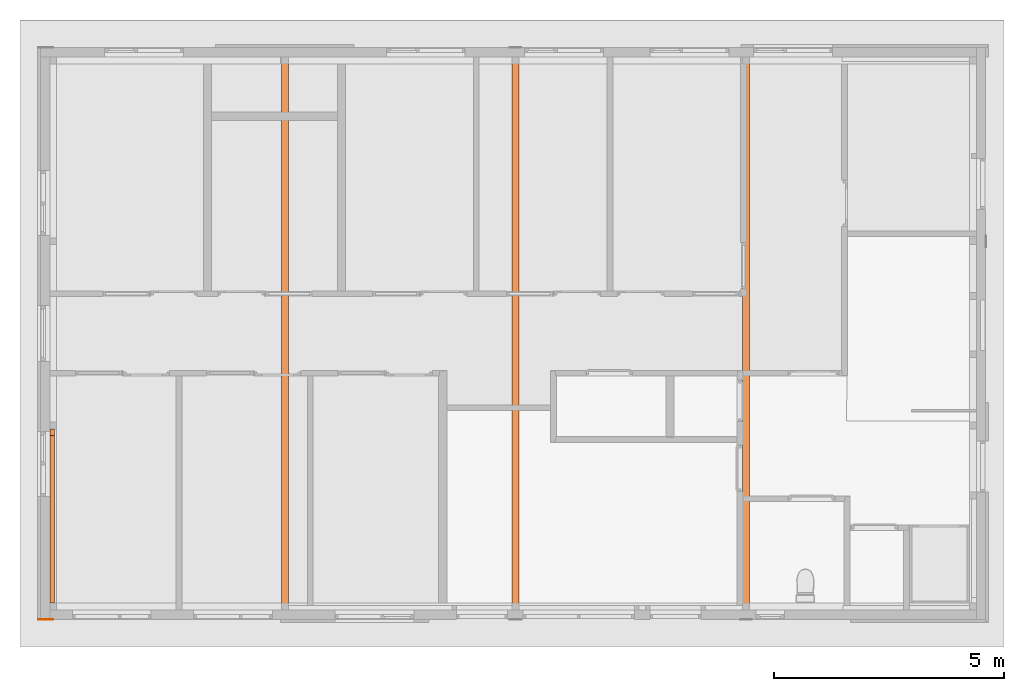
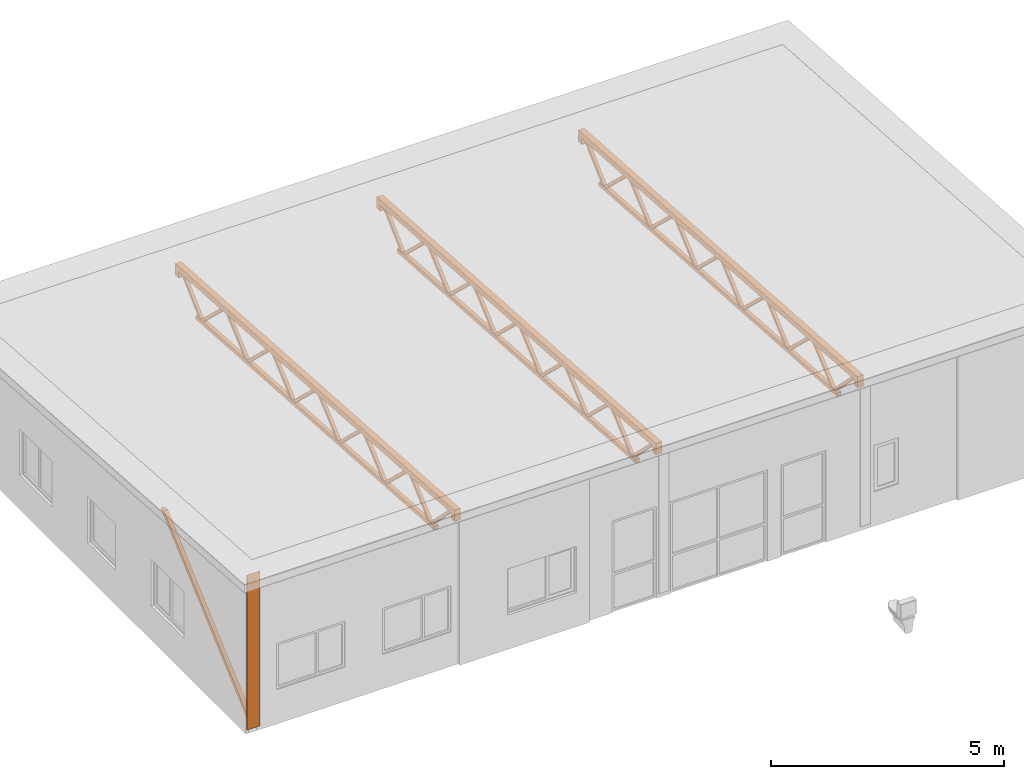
# One storey, part 35 of 37: 5 proxies.
"""IFC2X3 building model written with IfcOpenShell, lengths in millimetres."""

from ifc_helpers import new_model, entity, si_unit, converted_unit, frame, origin, place, context, subcontext, project, spatial, faceted_brep, source, transform, mapped, material, element, save


model = new_model("IFC2X3")

# Units and contexts
model_context = context("Model", 3, precision=1e-05, world=origin())
plan_context = context("Plan", 3, precision=1e-05, world=origin())
body_context = subcontext(model_context, "Body", "Model", "MODEL_VIEW")
ifc_project = project(units=[si_unit("LENGTHUNIT", "METRE", prefix="MILLI"), converted_unit("PLANEANGLEUNIT", "DEGREE", entity("IfcPlaneAngleMeasure", 0.0174532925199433), si_unit("PLANEANGLEUNIT", "RADIAN"), dimensions=[0, 0, 0, 0, 0, 0, 0]), si_unit("AREAUNIT", "SQUARE_METRE"), si_unit("VOLUMEUNIT", "CUBIC_METRE")], contexts=[model_context, plan_context])

# Building, storey
building_placement = place(None, origin())
building = spatial("IfcBuilding", under=ifc_project, at=building_placement, Name="HEKF Administrasjonbygg", CompositionType="ELEMENT")
storey_placement = place(building_placement, frame((0.0, 0.0, 9900.0), z_axis=(0.0, 0.0, 1.0), x_axis=(1.0, 0.0, 0.0)))
storey = spatial("IfcBuildingStorey", under=building, at=storey_placement, Name="Plan 2", CompositionType="ELEMENT", Elevation=9900.0)

# Proxies
shared_shape = source(origin(), body_context, "Body", "Brep", [
    faceted_brep([(11850.01000000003, 150.0100000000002, 667.5320539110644), (12000.01000000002, 150.0100000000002, 667.5320539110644), (12000.01, 150.0100000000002, 817.5320539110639), (11850.01000000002, 150.0100000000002, 827.532053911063), (12000.01000000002, 0.01000000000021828, 667.5320539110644), (11850.01000000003, 0.01000000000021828, 667.5320539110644), (11850.01000000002, 0.01000000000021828, 827.5320539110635), (12000.01, 0.01000000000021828, 817.5320539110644), (12000.01000000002, 150.0100000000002, 667.5320539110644), (11850.01000000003, 150.0100000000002, 667.5320539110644), (11850.01000000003, 0.01000000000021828, 667.5320539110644), (12000.01000000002, 0.01000000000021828, 667.5320539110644), (12000.01, 150.0100000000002, 817.5320539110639), (12000.01000000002, 150.0100000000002, 667.5320539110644), (12000.01000000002, 0.01000000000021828, 667.5320539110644), (12000.01, 0.01000000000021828, 817.5320539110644), (11850.01000000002, 150.0100000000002, 827.532053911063), (12000.01, 150.0100000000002, 817.5320539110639), (12000.01, 0.01000000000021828, 817.5320539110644), (11850.01000000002, 0.01000000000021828, 827.5320539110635), (11850.01000000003, 150.0100000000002, 667.5320539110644), (11850.01000000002, 150.0100000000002, 827.532053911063), (11850.01000000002, 0.01000000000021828, 827.5320539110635), (11850.01000000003, 0.01000000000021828, 667.5320539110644)], [[[0, 1, 2, 3]], [[4, 5, 6, 7]], [[8, 9, 10, 11]], [[12, 13, 14, 15]], [[16, 17, 18, 19]], [[20, 21, 22, 23]]], orient=[[False], [False], [False], [False], [False], [False]]),
    faceted_brep([(150.0100000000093, 150.0100000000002, 1607.532053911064), (0.01000000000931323, 150.0100000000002, 1617.532053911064), (0.01000000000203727, 150.0100000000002, 1467.532053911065), (150.0100000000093, 150.0100000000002, 1467.532053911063), (0.01000000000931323, 0.01000000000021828, 1617.532053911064), (150.0100000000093, 0.01000000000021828, 1607.532053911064), (150.0100000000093, 0.01000000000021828, 1467.532053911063), (0.01000000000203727, 0.01000000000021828, 1467.532053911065), (0.01000000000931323, 150.0100000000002, 1617.532053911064), (150.0100000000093, 150.0100000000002, 1607.532053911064), (150.0100000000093, 0.01000000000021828, 1607.532053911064), (0.01000000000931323, 0.01000000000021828, 1617.532053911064), (0.01000000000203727, 150.0100000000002, 1467.532053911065), (0.01000000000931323, 150.0100000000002, 1617.532053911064), (0.01000000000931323, 0.01000000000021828, 1617.532053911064), (0.01000000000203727, 0.01000000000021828, 1467.532053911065), (150.0100000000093, 150.0100000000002, 1467.532053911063), (0.01000000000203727, 150.0100000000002, 1467.532053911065), (0.01000000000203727, 0.01000000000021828, 1467.532053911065), (150.0100000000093, 0.01000000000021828, 1467.532053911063), (150.0100000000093, 150.0100000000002, 1607.532053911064), (150.0100000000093, 150.0100000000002, 1467.532053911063), (150.0100000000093, 0.01000000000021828, 1467.532053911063), (150.0100000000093, 0.01000000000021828, 1607.532053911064)], [[[0, 1, 2, 3]], [[4, 5, 6, 7]], [[8, 9, 10, 11]], [[12, 13, 14, 15]], [[16, 17, 18, 19]], [[20, 21, 22, 23]]], orient=[[False], [False], [False], [False], [False], [False]]),
    faceted_brep([(12000.01, 150.0100000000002, 817.5320539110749), (12000.01, 150.0100000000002, 967.8650176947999), (0.01000000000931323, 150.0100000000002, 1767.865017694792), (0.01000000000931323, 150.0100000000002, 1617.532053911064), (12000.01, 0.01000000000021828, 967.8650176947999), (12000.01, 0.01000000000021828, 817.5320539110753), (0.01000000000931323, 0.01000000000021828, 1617.532053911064), (0.01000000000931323, 0.01000000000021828, 1767.865017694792), (12000.01, 150.0100000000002, 967.8650176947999), (12000.01, 150.0100000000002, 817.5320539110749), (12000.01, 0.01000000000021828, 817.5320539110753), (12000.01, 0.01000000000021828, 967.8650176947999), (0.01000000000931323, 150.0100000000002, 1767.865017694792), (12000.01, 150.0100000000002, 967.8650176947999), (12000.01, 0.01000000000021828, 967.8650176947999), (0.01000000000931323, 0.01000000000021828, 1767.865017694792), (0.01000000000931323, 150.0100000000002, 1617.532053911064), (0.01000000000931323, 150.0100000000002, 1767.865017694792), (0.01000000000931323, 0.01000000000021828, 1767.865017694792), (0.01000000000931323, 0.01000000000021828, 1617.532053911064), (12000.01, 150.0100000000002, 817.5320539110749), (0.01000000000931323, 150.0100000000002, 1617.532053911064), (0.01000000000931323, 0.01000000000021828, 1617.532053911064), (12000.01, 0.01000000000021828, 817.5320539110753)], [[[0, 1, 2, 3]], [[4, 5, 6, 7]], [[8, 9, 10, 11]], [[12, 13, 14, 15]], [[16, 17, 18, 19]], [[20, 21, 22, 23]]], orient=[[False], [False], [False], [False], [False], [False]]),
    faceted_brep([(11165.91270898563, 125.0100000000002, 0.009999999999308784), (11163.83512104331, 125.0100000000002, 100.3704817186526), (909.5088022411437, 125.0100000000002, 783.9922363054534), (911.58639018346, 125.0100000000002, 683.6317545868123), (11163.83512104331, 25.01000000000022, 100.3704817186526), (11165.91270898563, 25.01000000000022, 0.01000000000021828), (911.58639018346, 25.01000000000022, 683.6317545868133), (909.5088022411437, 25.01000000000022, 783.9922363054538), (11163.83512104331, 125.0100000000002, 100.3704817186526), (11165.91270898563, 125.0100000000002, 0.009999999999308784), (11165.91270898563, 25.01000000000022, 0.01000000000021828), (11163.83512104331, 25.01000000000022, 100.3704817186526), (909.5088022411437, 125.0100000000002, 783.9922363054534), (11163.83512104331, 125.0100000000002, 100.3704817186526), (11163.83512104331, 25.01000000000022, 100.3704817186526), (909.5088022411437, 25.01000000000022, 783.9922363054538), (911.58639018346, 125.0100000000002, 683.6317545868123), (909.5088022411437, 125.0100000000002, 783.9922363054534), (909.5088022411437, 25.01000000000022, 783.9922363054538), (911.58639018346, 25.01000000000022, 683.6317545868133), (11165.91270898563, 125.0100000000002, 0.009999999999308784), (911.58639018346, 125.0100000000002, 683.6317545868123), (911.58639018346, 25.01000000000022, 683.6317545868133), (11165.91270898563, 25.01000000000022, 0.01000000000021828)], [[[0, 1, 2, 3]], [[4, 5, 6, 7]], [[8, 9, 10, 11]], [[12, 13, 14, 15]], [[16, 17, 18, 19]], [[20, 21, 22, 23]]], orient=[[False], [False], [False], [False], [False], [False]]),
    faceted_brep([(11839.97758495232, 115.0100000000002, 828.2008815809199), (11730.82594953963, 115.0100000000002, 835.4776572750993), (10961.85995729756, 115.0100000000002, 113.8354926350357), (11071.01159271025, 115.0100000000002, 106.5587169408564), (11730.82594953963, 35.01000000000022, 835.4776572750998), (11839.97758495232, 35.01000000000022, 828.2008815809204), (11071.01159271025, 35.01000000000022, 106.5587169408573), (10961.85995729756, 35.01000000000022, 113.8354926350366), (11730.82594953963, 115.0100000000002, 835.4776572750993), (11839.97758495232, 115.0100000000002, 828.2008815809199), (11839.97758495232, 35.01000000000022, 828.2008815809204), (11730.82594953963, 35.01000000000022, 835.4776572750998), (10961.85995729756, 115.0100000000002, 113.8354926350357), (11730.82594953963, 115.0100000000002, 835.4776572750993), (11730.82594953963, 35.01000000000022, 835.4776572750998), (10961.85995729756, 35.01000000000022, 113.8354926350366), (11071.01159271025, 115.0100000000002, 106.5587169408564), (10961.85995729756, 115.0100000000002, 113.8354926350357), (10961.85995729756, 35.01000000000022, 113.8354926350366), (11071.01159271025, 35.01000000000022, 106.5587169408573), (11839.97758495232, 115.0100000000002, 828.2008815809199), (11071.01159271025, 115.0100000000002, 106.5587169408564), (11071.01159271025, 35.01000000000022, 106.5587169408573), (11839.97758495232, 35.01000000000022, 828.2008815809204)], [[[0, 1, 2, 3]], [[4, 5, 6, 7]], [[8, 9, 10, 11]], [[12, 13, 14, 15]], [[16, 17, 18, 19]], [[20, 21, 22, 23]]], orient=[[False], [False], [False], [False], [False], [False]]),
    faceted_brep([(10844.23445531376, 115.0100000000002, 121.677192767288), (10968.84037829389, 115.0100000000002, 113.3701312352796), (10097.77590659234, 115.0100000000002, 944.3476601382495), (9973.169983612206, 115.0100000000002, 952.6547216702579), (10968.84037829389, 35.01000000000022, 113.3701312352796), (10844.23445531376, 35.01000000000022, 121.677192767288), (9973.169983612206, 35.01000000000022, 952.6547216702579), (10097.77590659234, 35.01000000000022, 944.3476601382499), (10968.84037829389, 115.0100000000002, 113.3701312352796), (10844.23445531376, 115.0100000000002, 121.677192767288), (10844.23445531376, 35.01000000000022, 121.677192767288), (10968.84037829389, 35.01000000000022, 113.3701312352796), (10097.77590659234, 115.0100000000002, 944.3476601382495), (10968.84037829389, 115.0100000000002, 113.3701312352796), (10968.84037829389, 35.01000000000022, 113.3701312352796), (10097.77590659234, 35.01000000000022, 944.3476601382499), (9973.169983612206, 115.0100000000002, 952.6547216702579), (10097.77590659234, 115.0100000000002, 944.3476601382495), (10097.77590659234, 35.01000000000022, 944.3476601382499), (9973.169983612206, 35.01000000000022, 952.6547216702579), (10844.23445531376, 115.0100000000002, 121.677192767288), (9973.169983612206, 115.0100000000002, 952.6547216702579), (9973.169983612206, 35.01000000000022, 952.6547216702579), (10844.23445531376, 35.01000000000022, 121.677192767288)], [[[0, 1, 2, 3]], [[4, 5, 6, 7]], [[8, 9, 10, 11]], [[12, 13, 14, 15]], [[16, 17, 18, 19]], [[20, 21, 22, 23]]], orient=[[False], [False], [False], [False], [False], [False]]),
    faceted_brep([(9927.18652755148, 115.0100000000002, 955.720285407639), (9814.064288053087, 115.0100000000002, 963.2617680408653), (8990.06813629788, 115.0100000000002, 245.2882807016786), (9103.190375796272, 115.0100000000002, 237.7467980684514), (9814.064288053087, 35.01000000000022, 963.2617680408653), (9927.18652755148, 35.01000000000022, 955.720285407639), (9103.190375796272, 35.01000000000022, 237.7467980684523), (8990.06813629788, 35.01000000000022, 245.2882807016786), (9814.064288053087, 115.0100000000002, 963.2617680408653), (9927.18652755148, 115.0100000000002, 955.720285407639), (9927.18652755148, 35.01000000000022, 955.720285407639), (9814.064288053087, 35.01000000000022, 963.2617680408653), (8990.06813629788, 115.0100000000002, 245.2882807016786), (9814.064288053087, 115.0100000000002, 963.2617680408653), (9814.064288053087, 35.01000000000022, 963.2617680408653), (8990.06813629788, 35.01000000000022, 245.2882807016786), (9103.190375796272, 115.0100000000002, 237.7467980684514), (8990.06813629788, 115.0100000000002, 245.2882807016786), (8990.06813629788, 35.01000000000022, 245.2882807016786), (9103.190375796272, 35.01000000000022, 237.7467980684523), (9927.18652755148, 115.0100000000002, 955.720285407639), (9103.190375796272, 115.0100000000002, 237.7467980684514), (9103.190375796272, 35.01000000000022, 237.7467980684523), (9927.18652755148, 35.01000000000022, 955.720285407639)], [[[0, 1, 2, 3]], [[4, 5, 6, 7]], [[8, 9, 10, 11]], [[12, 13, 14, 15]], [[16, 17, 18, 19]], [[20, 21, 22, 23]]], orient=[[False], [False], [False], [False], [False], [False]]),
    faceted_brep([(8874.427936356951, 115.0100000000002, 252.9976273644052), (8999.03385933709, 115.0100000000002, 244.6905658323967), (8127.96938763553, 115.0100000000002, 1075.668094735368), (8003.363464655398, 115.0100000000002, 1083.975156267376), (8999.03385933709, 35.01000000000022, 244.6905658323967), (8874.427936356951, 35.01000000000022, 252.9976273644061), (8003.363464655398, 35.01000000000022, 1083.975156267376), (8127.96938763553, 35.01000000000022, 1075.668094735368), (8999.03385933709, 115.0100000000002, 244.6905658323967), (8874.427936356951, 115.0100000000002, 252.9976273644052), (8874.427936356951, 35.01000000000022, 252.9976273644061), (8999.03385933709, 35.01000000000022, 244.6905658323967), (8127.96938763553, 115.0100000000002, 1075.668094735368), (8999.03385933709, 115.0100000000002, 244.6905658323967), (8999.03385933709, 35.01000000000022, 244.6905658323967), (8127.96938763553, 35.01000000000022, 1075.668094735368), (8003.363464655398, 115.0100000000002, 1083.975156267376), (8127.96938763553, 115.0100000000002, 1075.668094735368), (8127.96938763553, 35.01000000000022, 1075.668094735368), (8003.363464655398, 35.01000000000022, 1083.975156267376), (8874.427936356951, 115.0100000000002, 252.9976273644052), (8003.363464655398, 115.0100000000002, 1083.975156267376), (8003.363464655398, 35.01000000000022, 1083.975156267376), (8874.427936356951, 35.01000000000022, 252.9976273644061)], [[[0, 1, 2, 3]], [[4, 5, 6, 7]], [[8, 9, 10, 11]], [[12, 13, 14, 15]], [[16, 17, 18, 19]], [[20, 21, 22, 23]]], orient=[[False], [False], [False], [False], [False], [False]]),
    faceted_brep([(7957.380008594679, 115.0100000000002, 1087.040720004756), (7844.257769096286, 115.0100000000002, 1094.582202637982), (7020.261617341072, 115.0100000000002, 376.6087152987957), (7133.383856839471, 115.0100000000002, 369.0672326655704), (7844.257769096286, 35.01000000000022, 1094.582202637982), (7957.380008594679, 35.01000000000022, 1087.040720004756), (7133.383856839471, 35.01000000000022, 369.0672326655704), (7020.261617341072, 35.01000000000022, 376.6087152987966), (7844.257769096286, 115.0100000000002, 1094.582202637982), (7957.380008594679, 115.0100000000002, 1087.040720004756), (7957.380008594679, 35.01000000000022, 1087.040720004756), (7844.257769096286, 35.01000000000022, 1094.582202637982), (7020.261617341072, 115.0100000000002, 376.6087152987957), (7844.257769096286, 115.0100000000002, 1094.582202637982), (7844.257769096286, 35.01000000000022, 1094.582202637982), (7020.261617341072, 35.01000000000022, 376.6087152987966), (7133.383856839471, 115.0100000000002, 369.0672326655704), (7020.261617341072, 115.0100000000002, 376.6087152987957), (7020.261617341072, 35.01000000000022, 376.6087152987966), (7133.383856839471, 35.01000000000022, 369.0672326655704), (7957.380008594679, 115.0100000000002, 1087.040720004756), (7133.383856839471, 115.0100000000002, 369.0672326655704), (7133.383856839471, 35.01000000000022, 369.0672326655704), (7957.380008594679, 35.01000000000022, 1087.040720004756)], [[[0, 1, 2, 3]], [[4, 5, 6, 7]], [[8, 9, 10, 11]], [[12, 13, 14, 15]], [[16, 17, 18, 19]], [[20, 21, 22, 23]]], orient=[[False], [False], [False], [False], [False], [False]]),
    faceted_brep([(6904.621417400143, 115.0100000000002, 384.3180619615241), (7029.227340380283, 115.0100000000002, 376.0110004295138), (6158.162868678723, 115.0100000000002, 1206.988529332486), (6033.556945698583, 115.0100000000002, 1215.295590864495), (7029.227340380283, 35.01000000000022, 376.0110004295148), (6904.621417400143, 35.01000000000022, 384.3180619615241), (6033.556945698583, 35.01000000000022, 1215.295590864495), (6158.162868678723, 35.01000000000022, 1206.988529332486), (7029.227340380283, 115.0100000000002, 376.0110004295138), (6904.621417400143, 115.0100000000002, 384.3180619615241), (6904.621417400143, 35.01000000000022, 384.3180619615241), (7029.227340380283, 35.01000000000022, 376.0110004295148), (6158.162868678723, 115.0100000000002, 1206.988529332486), (7029.227340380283, 115.0100000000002, 376.0110004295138), (7029.227340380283, 35.01000000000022, 376.0110004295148), (6158.162868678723, 35.01000000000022, 1206.988529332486), (6033.556945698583, 115.0100000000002, 1215.295590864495), (6158.162868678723, 115.0100000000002, 1206.988529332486), (6158.162868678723, 35.01000000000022, 1206.988529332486), (6033.556945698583, 35.01000000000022, 1215.295590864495), (6904.621417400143, 115.0100000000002, 384.3180619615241), (6033.556945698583, 115.0100000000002, 1215.295590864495), (6033.556945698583, 35.01000000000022, 1215.295590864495), (6904.621417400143, 35.01000000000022, 384.3180619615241)], [[[0, 1, 2, 3]], [[4, 5, 6, 7]], [[8, 9, 10, 11]], [[12, 13, 14, 15]], [[16, 17, 18, 19]], [[20, 21, 22, 23]]], orient=[[False], [False], [False], [False], [False], [False]]),
    faceted_brep([(5987.573489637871, 115.0100000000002, 1218.361154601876), (5874.451250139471, 115.0100000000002, 1225.902637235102), (5050.455098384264, 115.0100000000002, 507.9291498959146), (5163.577337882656, 115.0100000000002, 500.3876672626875), (5874.451250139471, 35.01000000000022, 1225.902637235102), (5987.573489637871, 35.01000000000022, 1218.361154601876), (5163.577337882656, 35.01000000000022, 500.3876672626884), (5050.455098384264, 35.01000000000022, 507.9291498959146), (5874.451250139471, 115.0100000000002, 1225.902637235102), (5987.573489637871, 115.0100000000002, 1218.361154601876), (5987.573489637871, 35.01000000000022, 1218.361154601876), (5874.451250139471, 35.01000000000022, 1225.902637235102), (5050.455098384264, 115.0100000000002, 507.9291498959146), (5874.451250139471, 115.0100000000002, 1225.902637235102), (5874.451250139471, 35.01000000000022, 1225.902637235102), (5050.455098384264, 35.01000000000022, 507.9291498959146), (5163.577337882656, 115.0100000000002, 500.3876672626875), (5050.455098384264, 115.0100000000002, 507.9291498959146), (5050.455098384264, 35.01000000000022, 507.9291498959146), (5163.577337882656, 35.01000000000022, 500.3876672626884), (5987.573489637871, 115.0100000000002, 1218.361154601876), (5163.577337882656, 115.0100000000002, 500.3876672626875), (5163.577337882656, 35.01000000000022, 500.3876672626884), (5987.573489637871, 35.01000000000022, 1218.361154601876)], [[[0, 1, 2, 3]], [[4, 5, 6, 7]], [[8, 9, 10, 11]], [[12, 13, 14, 15]], [[16, 17, 18, 19]], [[20, 21, 22, 23]]], orient=[[False], [False], [False], [False], [False], [False]]),
    faceted_brep([(4934.814898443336, 115.0100000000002, 515.6384965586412), (5059.420821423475, 115.0100000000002, 507.3314350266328), (4188.356349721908, 115.0100000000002, 1338.308963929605), (4063.750426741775, 115.0100000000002, 1346.616025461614), (5059.420821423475, 35.01000000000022, 507.3314350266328), (4934.814898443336, 35.01000000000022, 515.6384965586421), (4063.750426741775, 35.01000000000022, 1346.616025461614), (4188.356349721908, 35.01000000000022, 1338.308963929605), (5059.420821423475, 115.0100000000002, 507.3314350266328), (4934.814898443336, 115.0100000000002, 515.6384965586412), (4934.814898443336, 35.01000000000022, 515.6384965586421), (5059.420821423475, 35.01000000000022, 507.3314350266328), (4188.356349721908, 115.0100000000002, 1338.308963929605), (5059.420821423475, 115.0100000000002, 507.3314350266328), (5059.420821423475, 35.01000000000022, 507.3314350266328), (4188.356349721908, 35.01000000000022, 1338.308963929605), (4063.750426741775, 115.0100000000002, 1346.616025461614), (4188.356349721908, 115.0100000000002, 1338.308963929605), (4188.356349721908, 35.01000000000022, 1338.308963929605), (4063.750426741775, 35.01000000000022, 1346.616025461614), (4934.814898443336, 115.0100000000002, 515.6384965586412), (4063.750426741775, 115.0100000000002, 1346.616025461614), (4063.750426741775, 35.01000000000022, 1346.616025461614), (4934.814898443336, 35.01000000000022, 515.6384965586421)], [[[0, 1, 2, 3]], [[4, 5, 6, 7]], [[8, 9, 10, 11]], [[12, 13, 14, 15]], [[16, 17, 18, 19]], [[20, 21, 22, 23]]], orient=[[False], [False], [False], [False], [False], [False]]),
    faceted_brep([(4017.766970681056, 115.0100000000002, 1349.681589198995), (3904.644731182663, 115.0100000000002, 1357.223071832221), (3080.648579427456, 115.0100000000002, 639.2495844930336), (3193.770818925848, 115.0100000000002, 631.7081018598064), (3904.644731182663, 35.01000000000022, 1357.223071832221), (4017.766970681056, 35.01000000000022, 1349.681589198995), (3193.770818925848, 35.01000000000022, 631.7081018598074), (3080.648579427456, 35.01000000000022, 639.2495844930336), (3904.644731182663, 115.0100000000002, 1357.223071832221), (4017.766970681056, 115.0100000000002, 1349.681589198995), (4017.766970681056, 35.01000000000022, 1349.681589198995), (3904.644731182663, 35.01000000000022, 1357.223071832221), (3080.648579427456, 115.0100000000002, 639.2495844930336), (3904.644731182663, 115.0100000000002, 1357.223071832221), (3904.644731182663, 35.01000000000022, 1357.223071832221), (3080.648579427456, 35.01000000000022, 639.2495844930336), (3193.770818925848, 115.0100000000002, 631.7081018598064), (3080.648579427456, 115.0100000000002, 639.2495844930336), (3080.648579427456, 35.01000000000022, 639.2495844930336), (3193.770818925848, 35.01000000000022, 631.7081018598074), (4017.766970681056, 115.0100000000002, 1349.681589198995), (3193.770818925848, 115.0100000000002, 631.7081018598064), (3193.770818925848, 35.01000000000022, 631.7081018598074), (4017.766970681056, 35.01000000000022, 1349.681589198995)], [[[0, 1, 2, 3]], [[4, 5, 6, 7]], [[8, 9, 10, 11]], [[12, 13, 14, 15]], [[16, 17, 18, 19]], [[20, 21, 22, 23]]], orient=[[False], [False], [False], [False], [False], [False]]),
    faceted_brep([(2965.008379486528, 115.0100000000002, 646.958931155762), (3089.614302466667, 115.0100000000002, 638.6518696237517), (2218.5498307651, 115.0100000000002, 1469.629398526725), (2093.943907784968, 115.0100000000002, 1477.936460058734), (3089.614302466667, 35.01000000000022, 638.6518696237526), (2965.008379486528, 35.01000000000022, 646.958931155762), (2093.943907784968, 35.01000000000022, 1477.936460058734), (2218.5498307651, 35.01000000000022, 1469.629398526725), (3089.614302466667, 115.0100000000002, 638.6518696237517), (2965.008379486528, 115.0100000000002, 646.958931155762), (2965.008379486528, 35.01000000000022, 646.958931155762), (3089.614302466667, 35.01000000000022, 638.6518696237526), (2218.5498307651, 115.0100000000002, 1469.629398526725), (3089.614302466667, 115.0100000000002, 638.6518696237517), (3089.614302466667, 35.01000000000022, 638.6518696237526), (2218.5498307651, 35.01000000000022, 1469.629398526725), (2093.943907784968, 115.0100000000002, 1477.936460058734), (2218.5498307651, 115.0100000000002, 1469.629398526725), (2218.5498307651, 35.01000000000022, 1469.629398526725), (2093.943907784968, 35.01000000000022, 1477.936460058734), (2965.008379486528, 115.0100000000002, 646.958931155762), (2093.943907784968, 115.0100000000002, 1477.936460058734), (2093.943907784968, 35.01000000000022, 1477.936460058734), (2965.008379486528, 35.01000000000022, 646.958931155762)], [[[0, 1, 2, 3]], [[4, 5, 6, 7]], [[8, 9, 10, 11]], [[12, 13, 14, 15]], [[16, 17, 18, 19]], [[20, 21, 22, 23]]], orient=[[False], [False], [False], [False], [False], [False]]),
    faceted_brep([(2047.960451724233, 115.0100000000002, 1481.002023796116), (1934.838212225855, 115.0100000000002, 1488.543506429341), (1110.842060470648, 115.0100000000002, 770.5700190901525), (1223.964299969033, 115.0100000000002, 763.0285364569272), (1934.838212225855, 35.01000000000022, 1488.543506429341), (2047.960451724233, 35.01000000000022, 1481.002023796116), (1223.964299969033, 35.01000000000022, 763.0285364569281), (1110.842060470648, 35.01000000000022, 770.5700190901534), (1934.838212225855, 115.0100000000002, 1488.543506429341), (2047.960451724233, 115.0100000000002, 1481.002023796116), (2047.960451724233, 35.01000000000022, 1481.002023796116), (1934.838212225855, 35.01000000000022, 1488.543506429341), (1110.842060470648, 115.0100000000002, 770.5700190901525), (1934.838212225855, 115.0100000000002, 1488.543506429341), (1934.838212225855, 35.01000000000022, 1488.543506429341), (1110.842060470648, 35.01000000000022, 770.5700190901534), (1223.964299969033, 115.0100000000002, 763.0285364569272), (1110.842060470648, 115.0100000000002, 770.5700190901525), (1110.842060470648, 35.01000000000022, 770.5700190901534), (1223.964299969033, 35.01000000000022, 763.0285364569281), (2047.960451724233, 115.0100000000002, 1481.002023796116), (1223.964299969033, 115.0100000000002, 763.0285364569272), (1223.964299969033, 35.01000000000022, 763.0285364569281), (2047.960451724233, 35.01000000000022, 1481.002023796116)], [[[0, 1, 2, 3]], [[4, 5, 6, 7]], [[8, 9, 10, 11]], [[12, 13, 14, 15]], [[16, 17, 18, 19]], [[20, 21, 22, 23]]], orient=[[False], [False], [False], [False], [False], [False]]),
    faceted_brep([(997.1660616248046, 115.0100000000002, 778.1484190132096), (1117.843582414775, 115.0100000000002, 770.1032509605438), (296.6683686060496, 115.0100000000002, 1597.754829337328), (175.9908478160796, 115.0100000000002, 1605.799997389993), (1117.843582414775, 35.01000000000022, 770.1032509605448), (997.1660616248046, 35.01000000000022, 778.1484190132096), (175.9908478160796, 35.01000000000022, 1605.799997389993), (296.6683686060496, 35.01000000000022, 1597.754829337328), (1117.843582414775, 115.0100000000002, 770.1032509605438), (997.1660616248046, 115.0100000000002, 778.1484190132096), (997.1660616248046, 35.01000000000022, 778.1484190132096), (1117.843582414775, 35.01000000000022, 770.1032509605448), (296.6683686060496, 115.0100000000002, 1597.754829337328), (1117.843582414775, 115.0100000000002, 770.1032509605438), (1117.843582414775, 35.01000000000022, 770.1032509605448), (296.6683686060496, 35.01000000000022, 1597.754829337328), (175.9908478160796, 115.0100000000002, 1605.799997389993), (296.6683686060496, 115.0100000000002, 1597.754829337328), (296.6683686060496, 35.01000000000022, 1597.754829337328), (175.9908478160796, 35.01000000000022, 1605.799997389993), (997.1660616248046, 115.0100000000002, 778.1484190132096), (175.9908478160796, 115.0100000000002, 1605.799997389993), (175.9908478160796, 35.01000000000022, 1605.799997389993), (997.1660616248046, 35.01000000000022, 778.1484190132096)], [[[0, 1, 2, 3]], [[4, 5, 6, 7]], [[8, 9, 10, 11]], [[12, 13, 14, 15]], [[16, 17, 18, 19]], [[20, 21, 22, 23]]], orient=[[False], [False], [False], [False], [False], [False]]),
])
for number, where, z_axis, x_axis in (
    (1, (25075.01, -12000.00999999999, 2132.134982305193), (0.0, 0.0, 1.0), (6.123233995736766e-17, 1.0, 0.0)),
    (2, (20075.01, -12000.00999999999, 2132.134982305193), (0.0, 0.0, 1.0), (6.123233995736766e-17, 1.0, 0.0)),
    (3, (15075.01, -12000.00999999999, 2132.134982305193), (0.0, 0.0, 1.0), (6.123233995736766e-17, 1.0, 0.0)),
):
    element("IfcBuildingElementProxy", number, at=place(storey_placement, frame(where, z_axis=z_axis, x_axis=x_axis)), inside=storey, Name="Gitterdrager", context=body_context, shape_type="MappedRepresentation", body=[
        mapped(shared_shape, transform((0.0, 0.0, 0.0), scale=1.0)),
    ])
ifc_material_1 = material(Name="Betong i drager")
proxy_1_placement = place(storey_placement, frame((9899.989999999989, -11850.00999999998, -0.01000000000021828), z_axis=(0.0, 0.0, 1.0), x_axis=(1.0, 0.0, 0.0)))
element("IfcBuildingElementProxy", 4, at=proxy_1_placement, inside=storey, material=ifc_material_1, context=body_context, shape_type="Brep", body=[
    faceted_brep([(0.01000000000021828, 0.01000000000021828, 133.4911508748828), (0.01000000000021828, 0.01000000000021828, 0.01000000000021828), (0.01000000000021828, 3775.009999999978, 3337.677405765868), (0.01000000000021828, 3634.624253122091, 3347.036455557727), (100.0100000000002, 0.01000000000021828, 0.01000000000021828), (100.0100000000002, 0.01000000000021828, 133.4911508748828), (100.0100000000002, 3634.624253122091, 3347.036455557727), (100.0100000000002, 3775.009999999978, 3337.677405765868), (0.01000000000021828, 0.01000000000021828, 0.01000000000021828), (0.01000000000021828, 0.01000000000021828, 133.4911508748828), (100.0100000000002, 0.01000000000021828, 133.4911508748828), (100.0100000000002, 0.01000000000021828, 0.01000000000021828), (0.01000000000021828, 3775.009999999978, 3337.677405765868), (0.01000000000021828, 0.01000000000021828, 0.01000000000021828), (100.0100000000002, 0.01000000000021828, 0.01000000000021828), (100.0100000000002, 3775.009999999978, 3337.677405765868), (0.01000000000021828, 3634.624253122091, 3347.036455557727), (0.01000000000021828, 3775.009999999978, 3337.677405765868), (100.0100000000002, 3775.009999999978, 3337.677405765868), (100.0100000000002, 3634.624253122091, 3347.036455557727), (0.01000000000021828, 0.01000000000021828, 133.4911508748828), (0.01000000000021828, 3634.624253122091, 3347.036455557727), (100.0100000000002, 3634.624253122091, 3347.036455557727), (100.0100000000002, 0.01000000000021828, 133.4911508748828)], [[[0, 1, 2, 3]], [[4, 5, 6, 7]], [[8, 9, 10, 11]], [[12, 13, 14, 15]], [[16, 17, 18, 19]], [[20, 21, 22, 23]]], orient=[[False], [False], [False], [False], [False], [False]]),
])
ifc_material_2 = material(Name="T24")
proxy_2_placement = place(storey_placement, frame((9653.989999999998, -12210.01000000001, 100.9899999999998), z_axis=(0.0, 0.0, 1.0), x_axis=(1.0, 0.0, 0.0)))
element("IfcBuildingElementProxy", 5, at=proxy_2_placement, inside=storey, material=ifc_material_2, context=body_context, shape_type="Brep", body=[
    faceted_brep([(0.01000000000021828, 0.01000000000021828, 0.01000000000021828), (0.01000000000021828, 10.01000000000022, 0.01000000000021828), (0.01000000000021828, 10.01000000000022, 4062.343333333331), (0.01000000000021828, 0.01000000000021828, 4062.343333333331), (320.0100000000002, 0.01000000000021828, 0.01000000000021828), (320.0100000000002, 10.01000000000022, 0.01000000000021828), (0.01000000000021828, 10.01000000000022, 0.01000000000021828), (0.01000000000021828, 0.01000000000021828, 0.01000000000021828), (320.0100000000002, 0.01000000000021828, 4062.343333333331), (320.0100000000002, 10.01000000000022, 4062.343333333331), (320.0100000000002, 10.01000000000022, 0.01000000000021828), (320.0100000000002, 0.01000000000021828, 0.01000000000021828), (0.01000000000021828, 0.01000000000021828, 4062.343333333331), (0.01000000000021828, 10.01000000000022, 4062.343333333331), (320.0100000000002, 10.01000000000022, 4062.343333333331), (320.0100000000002, 0.01000000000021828, 4062.343333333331), (0.01000000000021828, 10.01000000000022, 0.01000000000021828), (320.0100000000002, 10.01000000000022, 0.01000000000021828), (320.0100000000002, 10.01000000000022, 4062.343333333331), (0.01000000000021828, 10.01000000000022, 4062.343333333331), (320.0100000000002, 0.01000000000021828, 0.01000000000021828), (0.01000000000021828, 0.01000000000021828, 0.01000000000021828), (0.01000000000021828, 0.01000000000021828, 4062.343333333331), (320.0100000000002, 0.01000000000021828, 4062.343333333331)], [[[0, 1, 2, 3]], [[4, 5, 6, 7]], [[8, 9, 10, 11]], [[12, 13, 14, 15]], [[16, 17, 18, 19]], [[20, 21, 22, 23]]], orient=[[False], [False], [False], [False], [False], [False]]),
])

save(model, "model.ifc")
